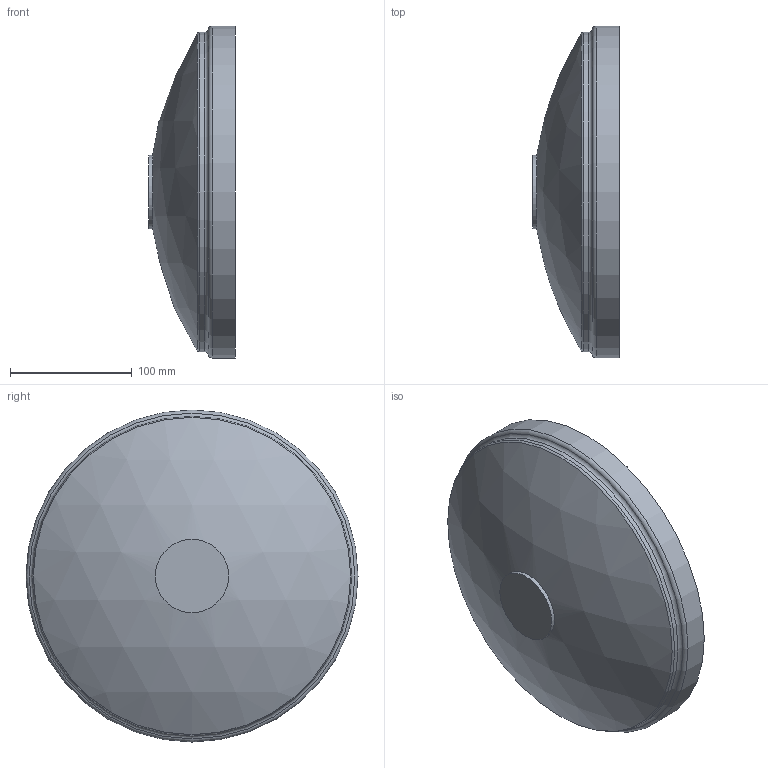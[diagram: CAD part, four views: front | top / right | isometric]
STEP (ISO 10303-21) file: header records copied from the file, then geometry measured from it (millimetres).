
FILE_DESCRIPTION(/* description */ ('VIC STRENGTHIN CAP No E496 w/Tap 1/2 inch BSPT (Concentric)','CAx-IF Rec.Pracs.---Representation and Presentation of Product Manufacturing Information (PMI)---4.0---2014-10-13'),/* implementation_level */ '2;1');
FILE_NAME(/* name */ 'C:\Users\Vjadhav\AppData\Roaming\Autodesk\ApplicationPlugins\Back Up\Victaulic_SS-StrengThin 100_Cap With Tap_No E496 (ST1)\Victaulic_SS-StrengThin 100_Cap With Tap_No E496 (ST1)_10.0x02.0 (250x50).stp',/* time_stamp */ '2020-07-07T18:47:27+05:00',/* author */ ('jheald'),/* organization */ ('Victaulic'),/* preprocessor_version */ 'ST-DEVELOPER v17.2',/* originating_system */ 'Autodesk Inventor 2019',/* authorisation */ '');
FILE_SCHEMA (('AP242_MANAGED_MODEL_BASED_3D_ENGINEERING_MIM_LF { 1 0 10303 442 1 1 4 }'));
Length unit declared in the file: inch
Products named in the file (1): E496-10.0x02.0
Bounding box: 71.12 x 273.05 x 273.05 mm (x, y, z)
Volume: 650973.1 mm3; surface area: 167834.1 mm2
Topology: 1 solids, 1 shells, 12 faces, 27 edges, 19 vertices
Faces by surface type: cylinder 4, torus 4, plane 2, sphere 2
Full cylindrical faces by diameter (mm): 60.325 x1, 254.508 x1, 262.636 x1, 273.05 x1
Entity records: 502 total; most frequent: DIRECTION 102, CARTESIAN_POINT 76, ORIENTED_EDGE 54, AXIS2_PLACEMENT_3D 49, EDGE_CURVE 27, CIRCLE 23, VERTEX_POINT 19, EDGE_LOOP 14
